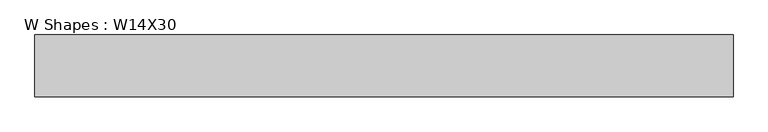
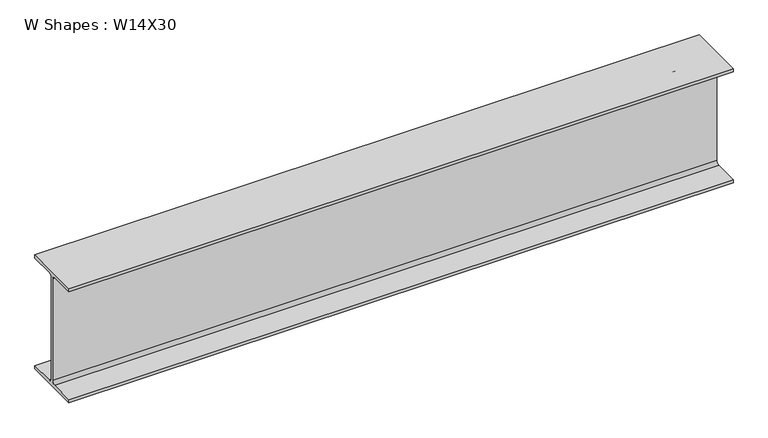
"""IFC4 building model written with IfcOpenShell, lengths in millimetres: beam geometry, W Shapes : W14X30."""

from ifc_helpers import new_model, si_unit, point, frame, frame_2d, origin, place, context, project, spatial, polyline, circle_curve, trimmed, segment, composite_curve, outline, extrude, source, transform, mapped, element, save


def w_shapes_w14x30_e37d3bf5(model_context):
    return source(origin(), model_context, "Body", "SweptSolid", [
        extrude(outline(composite_curve([segment(polyline([(85.471, -165.481), (85.471, -175.26), (-85.471, -175.26), (-85.471, -165.481), (-13.589, -165.481)]), True, "CONTINUOUS"), segment(trimmed(circle_curve(frame_2d((-13.589, -155.321)), 10.16), [point((-13.589, -165.481))], [point((-3.429, -155.321))], True, "CARTESIAN"), True, "CONTINUOUS"), segment(polyline([(-3.429, -155.321), (-3.429, 155.321)]), True, "CONTINUOUS"), segment(trimmed(circle_curve(frame_2d((-13.589, 155.321)), 10.16), [point((-3.429, 155.321))], [point((-13.589, 165.481))], True, "CARTESIAN"), True, "CONTINUOUS"), segment(polyline([(-13.589, 165.481), (-85.471, 165.481), (-85.471, 175.26), (85.471, 175.26), (85.471, 165.481), (13.589, 165.481)]), True, "CONTINUOUS"), segment(trimmed(circle_curve(frame_2d((13.589, 155.321)), 10.16), [point((13.589, 165.481))], [point((3.429, 155.321))], True, "CARTESIAN"), True, "CONTINUOUS"), segment(polyline([(3.429, 155.321), (3.429, -155.321)]), True, "CONTINUOUS"), segment(trimmed(circle_curve(frame_2d((13.589, -155.321)), 10.16), [point((3.429, -155.321))], [point((13.589, -165.481))], True, "CARTESIAN"), True, "CONTINUOUS"), segment(polyline([(13.589, -165.481), (85.471, -165.481)]), True, "CONTINUOUS")], self_intersect=False)), frame((-862.1489239, 0.0, 0.0), z_axis=(1.0, 0.0, 0.0), x_axis=(0.0, 1.0, 0.0)), (0.0, 0.0, 1.0), 1929.763636),
    ])


if __name__ == "__main__":
    model = new_model("IFC4")
    model_context = context("Model", 3, world=origin())
    ifc_project = project(units=[si_unit("LENGTHUNIT", "METRE", prefix="MILLI")], contexts=[model_context])
    site = spatial("IfcSite", under=ifc_project)
    building = spatial("IfcBuilding", under=site)
    placement = place(None, origin())
    w_shapes_w14x30_shape = w_shapes_w14x30_e37d3bf5(model_context)
    element("IfcBeam", 1, ObjectType="W Shapes : W14X30", at=placement, inside=building, context=model_context, shape_type="MappedRepresentation", body=[
        mapped(w_shapes_w14x30_shape, transform((0.0, 0.0, 0.0), x_axis=(1.0, 0.0, 0.0), y_axis=(0.0, 1.0, 0.0), z_axis=(0.0, 0.0, 1.0))),
    ])
    save(model, "model.ifc")
